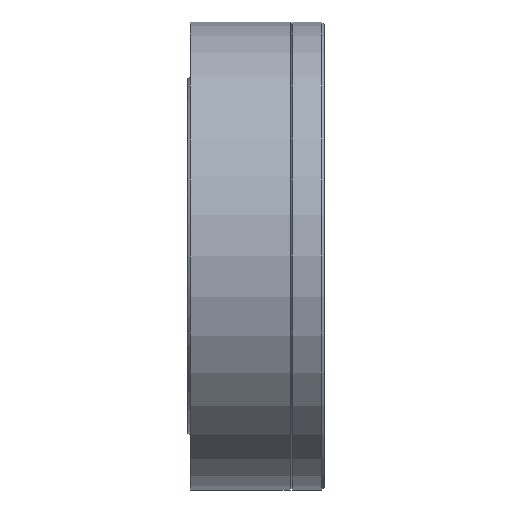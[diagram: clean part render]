
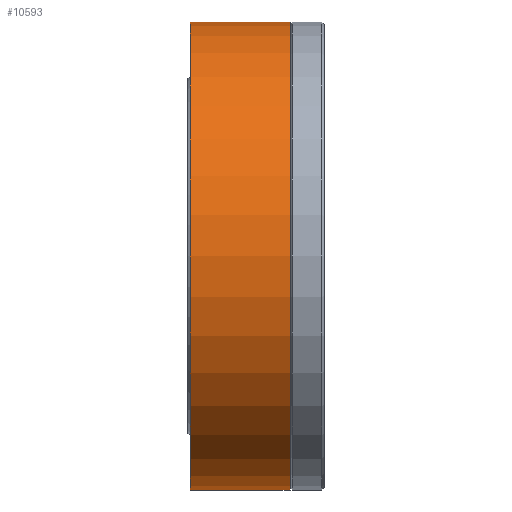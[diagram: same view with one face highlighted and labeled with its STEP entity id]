
A CAD part, front view. The second image highlights one B-rep face of the part: STEP entity #10593.
In plain terms, the highlighted cylindrical face has radius 55 mm (diameter 110 mm), a full revolution.
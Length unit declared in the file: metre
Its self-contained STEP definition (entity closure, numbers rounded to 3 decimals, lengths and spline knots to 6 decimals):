
#1261 = CIRCLE ( 'NONE', #27532, 0.055 ) ;
#1609 = FACE_OUTER_BOUND ( 'NONE', #6246, .T. ) ;
#1903 = DIRECTION ( 'NONE',  ( -1., 0., 0. ) ) ;
#5207 = EDGE_LOOP ( 'NONE', ( #26792 ) ) ;
#6246 = EDGE_LOOP ( 'NONE', ( #16043 ) ) ;
#6259 = VERTEX_POINT ( 'NONE', #21729 ) ;
#6956 = AXIS2_PLACEMENT_3D ( 'NONE', #20683, #14046, #22853 ) ;
#9349 = VERTEX_POINT ( 'NONE', #16010 ) ;
#9534 = EDGE_CURVE ( 'NONE', #6259, #6259, #9718, .T. ) ;
#9718 = CIRCLE ( 'NONE', #6956, 0.055 ) ;
#10593 = ADVANCED_FACE ( 'NONE', ( #1609, #19232 ), #21684, .T. ) ;
#14046 = DIRECTION ( 'NONE',  ( 1., 0., 0. ) ) ;
#16010 = CARTESIAN_POINT ( 'NONE',  ( 0.0023, 0., 0.055 ) ) ;
#16043 = ORIENTED_EDGE ( 'NONE', *, *, #9534, .T. ) ;
#16878 = DIRECTION ( 'NONE',  ( -1., 0., 0. ) ) ;
#19232 = FACE_OUTER_BOUND ( 'NONE', #5207, .T. ) ;
#20683 = CARTESIAN_POINT ( 'NONE',  ( -0.0211, 0., 0. ) ) ;
#21684 = CYLINDRICAL_SURFACE ( 'NONE', #22218, 0.055 ) ;
#21729 = CARTESIAN_POINT ( 'NONE',  ( -0.0211, 0., 0.055 ) ) ;
#22218 = AXIS2_PLACEMENT_3D ( 'NONE', #28181, #1903, #28029 ) ;
#22853 = DIRECTION ( 'NONE',  ( 0., 0., 1. ) ) ;
#23352 = DIRECTION ( 'NONE',  ( 0., 0., 1. ) ) ;
#24161 = EDGE_CURVE ( 'NONE', #9349, #9349, #1261, .T. ) ;
#25808 = CARTESIAN_POINT ( 'NONE',  ( 0.0023, 0., 0. ) ) ;
#26792 = ORIENTED_EDGE ( 'NONE', *, *, #24161, .T. ) ;
#27532 = AXIS2_PLACEMENT_3D ( 'NONE', #25808, #16878, #23352 ) ;
#28029 = DIRECTION ( 'NONE',  ( 0., 0., 1. ) ) ;
#28181 = CARTESIAN_POINT ( 'NONE',  ( -0.0211, 0., 0. ) ) ;
